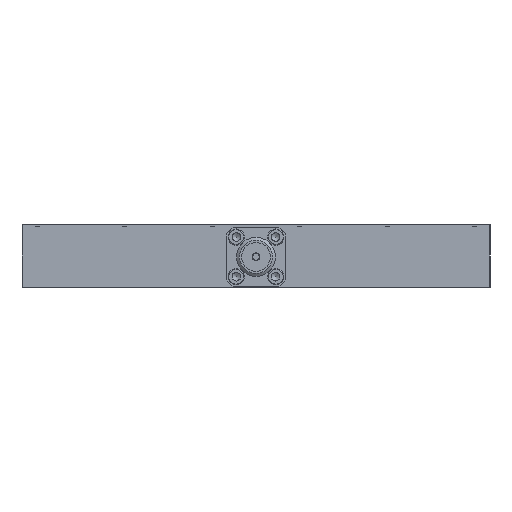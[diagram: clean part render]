
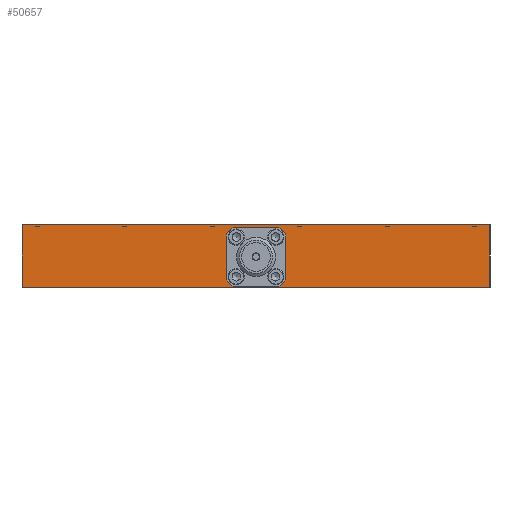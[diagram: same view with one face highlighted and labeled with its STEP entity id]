
A CAD part, left-side view. The second image highlights one B-rep face of the part: STEP entity #50657.
In plain terms, the highlighted planar face has unit normal (-1, 0, 0).
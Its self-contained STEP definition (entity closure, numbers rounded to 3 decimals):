
#590=LINE('',#63564,#4534);
#4394=LINE('',#72723,#8338);
#4398=LINE('',#72733,#8342);
#4401=LINE('',#72741,#8345);
#4404=LINE('',#72749,#8348);
#4442=LINE('',#72952,#8386);
#4443=LINE('',#72954,#8387);
#4444=LINE('',#72956,#8388);
#4534=VECTOR('',#54039,1000.);
#8338=VECTOR('',#61843,1000.);
#8342=VECTOR('',#61853,1000.);
#8345=VECTOR('',#61862,1000.);
#8348=VECTOR('',#61871,1000.);
#8386=VECTOR('',#61999,1000.);
#8387=VECTOR('',#62000,1000.);
#8388=VECTOR('',#62001,1000.);
#9870=PLANE('',#53194);
#18750=ORIENTED_EDGE('',*,*,#23888,.T.);
#18751=ORIENTED_EDGE('',*,*,#19570,.F.);
#18752=ORIENTED_EDGE('',*,*,#23889,.F.);
#18753=ORIENTED_EDGE('',*,*,#23890,.T.);
#18754=ORIENTED_EDGE('',*,*,#23825,.F.);
#18755=ORIENTED_EDGE('',*,*,#23810,.F.);
#18756=ORIENTED_EDGE('',*,*,#23813,.F.);
#18757=ORIENTED_EDGE('',*,*,#23815,.F.);
#18758=ORIENTED_EDGE('',*,*,#23817,.F.);
#18759=ORIENTED_EDGE('',*,*,#23819,.F.);
#18760=ORIENTED_EDGE('',*,*,#23821,.F.);
#18761=ORIENTED_EDGE('',*,*,#23823,.F.);
#19570=EDGE_CURVE('',#24290,#24291,#590,.T.);
#23810=EDGE_CURVE('',#27237,#27238,#4394,.T.);
#23813=EDGE_CURVE('',#27239,#27237,#27988,.T.);
#23815=EDGE_CURVE('',#27240,#27239,#4398,.T.);
#23817=EDGE_CURVE('',#27241,#27240,#27989,.T.);
#23819=EDGE_CURVE('',#27242,#27241,#4401,.T.);
#23821=EDGE_CURVE('',#27243,#27242,#27990,.T.);
#23823=EDGE_CURVE('',#27244,#27243,#4404,.T.);
#23825=EDGE_CURVE('',#27238,#27244,#27991,.T.);
#23888=EDGE_CURVE('',#27292,#24291,#4442,.T.);
#23889=EDGE_CURVE('',#27293,#24290,#4443,.T.);
#23890=EDGE_CURVE('',#27293,#27292,#4444,.T.);
#24290=VERTEX_POINT('',#63565);
#24291=VERTEX_POINT('',#63566);
#27237=VERTEX_POINT('',#72724);
#27238=VERTEX_POINT('',#72725);
#27239=VERTEX_POINT('',#72730);
#27240=VERTEX_POINT('',#72734);
#27241=VERTEX_POINT('',#72738);
#27242=VERTEX_POINT('',#72742);
#27243=VERTEX_POINT('',#72746);
#27244=VERTEX_POINT('',#72750);
#27292=VERTEX_POINT('',#72953);
#27293=VERTEX_POINT('',#72955);
#27988=CIRCLE('',#53142,6.);
#27989=CIRCLE('',#53145,6.);
#27990=CIRCLE('',#53148,6.);
#27991=CIRCLE('',#53151,6.);
#30442=EDGE_LOOP('',(#18750,#18751,#18752,#18753));
#30443=EDGE_LOOP('',(#18754,#18755,#18756,#18757,#18758,#18759,#18760,#18761));
#33256=FACE_BOUND('',#30442,.T.);
#33257=FACE_BOUND('',#30443,.T.);
#50657=ADVANCED_FACE('',(#33256,#33257),#9870,.T.);
#53142=AXIS2_PLACEMENT_3D('',#72729,#61848,#61849);
#53145=AXIS2_PLACEMENT_3D('',#72737,#61857,#61858);
#53148=AXIS2_PLACEMENT_3D('',#72745,#61866,#61867);
#53151=AXIS2_PLACEMENT_3D('',#72753,#61875,#61876);
#53194=AXIS2_PLACEMENT_3D('',#72951,#61997,#61998);
#54039=DIRECTION('',(0.,-1.,0.));
#61843=DIRECTION('',(0.,0.,-1.));
#61848=DIRECTION('',(-1.,0.,0.));
#61849=DIRECTION('',(0.,-1.,0.));
#61853=DIRECTION('',(0.,1.,0.));
#61857=DIRECTION('',(-1.,0.,0.));
#61858=DIRECTION('',(0.,-1.,0.));
#61862=DIRECTION('',(0.,0.,1.));
#61866=DIRECTION('',(-1.,0.,0.));
#61867=DIRECTION('',(0.,-1.,0.));
#61871=DIRECTION('',(0.,-1.,0.));
#61875=DIRECTION('',(-1.,0.,0.));
#61876=DIRECTION('',(0.,-1.,0.));
#61997=DIRECTION('',(-1.,0.,0.));
#61998=DIRECTION('',(0.,0.,1.));
#61999=DIRECTION('',(0.,0.,1.));
#62000=DIRECTION('',(0.,0.,1.));
#62001=DIRECTION('',(0.,-1.,0.));
#63564=CARTESIAN_POINT('',(-79.375,37.45,4.));
#63565=CARTESIAN_POINT('',(-79.375,37.45,4.));
#63566=CARTESIAN_POINT('',(-79.375,-37.45,4.));
#72723=CARTESIAN_POINT('',(-79.375,4.75,2.526));
#72724=CARTESIAN_POINT('',(-79.375,4.75,2.526));
#72725=CARTESIAN_POINT('',(-79.375,4.75,-4.806));
#72729=CARTESIAN_POINT('',(-79.375,0.,-1.14));
#72730=CARTESIAN_POINT('',(-79.375,3.666,3.61));
#72733=CARTESIAN_POINT('',(-79.375,-3.666,3.61));
#72734=CARTESIAN_POINT('',(-79.375,-3.666,3.61));
#72737=CARTESIAN_POINT('',(-79.375,0.,-1.14));
#72738=CARTESIAN_POINT('',(-79.375,-4.75,2.526));
#72741=CARTESIAN_POINT('',(-79.375,-4.75,-4.806));
#72742=CARTESIAN_POINT('',(-79.375,-4.75,-4.806));
#72745=CARTESIAN_POINT('',(-79.375,0.,-1.14));
#72746=CARTESIAN_POINT('',(-79.375,-3.666,-5.89));
#72749=CARTESIAN_POINT('',(-79.375,3.666,-5.89));
#72750=CARTESIAN_POINT('',(-79.375,3.666,-5.89));
#72753=CARTESIAN_POINT('',(-79.375,0.,-1.14));
#72951=CARTESIAN_POINT('',(-79.375,37.45,-6.));
#72952=CARTESIAN_POINT('',(-79.375,-37.45,-6.));
#72953=CARTESIAN_POINT('',(-79.375,-37.45,-6.));
#72954=CARTESIAN_POINT('',(-79.375,37.45,-6.));
#72955=CARTESIAN_POINT('',(-79.375,37.45,-6.));
#72956=CARTESIAN_POINT('',(-79.375,37.45,-6.));
